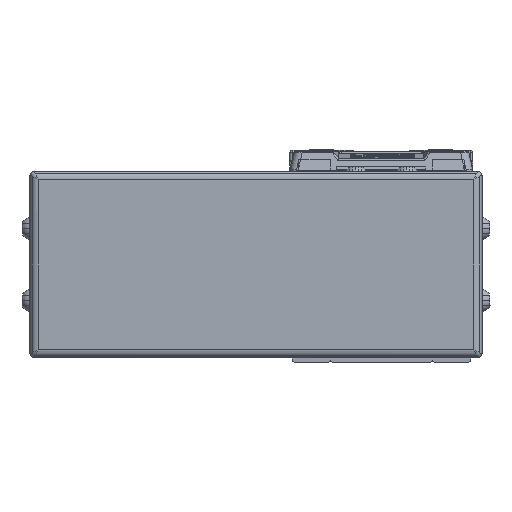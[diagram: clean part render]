
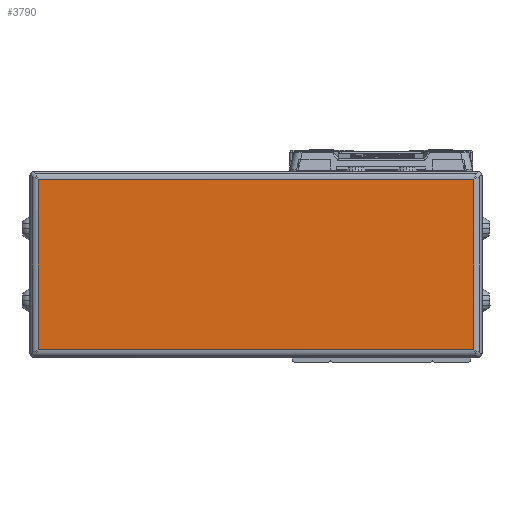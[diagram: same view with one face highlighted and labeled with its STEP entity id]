
A CAD part, left-side view. The second image highlights one B-rep face of the part: STEP entity #3790.
In plain terms, the highlighted planar face has unit normal (-1, 0, 0).
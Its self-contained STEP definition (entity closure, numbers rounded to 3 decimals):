
#3790=ADVANCED_FACE('',(#8359),#8360,.F.);
#8359=FACE_OUTER_BOUND('',#15046,.T.);
#8360=PLANE('',#15047);
#15046=EDGE_LOOP('',(#27424,#27425,#27426,#27427));
#15047=AXIS2_PLACEMENT_3D('',#27428,#27429,#27430);
#27424=ORIENTED_EDGE('',*,*,#39437,.T.);
#27425=ORIENTED_EDGE('',*,*,#39438,.T.);
#27426=ORIENTED_EDGE('',*,*,#37269,.T.);
#27427=ORIENTED_EDGE('',*,*,#38454,.T.);
#27428=CARTESIAN_POINT('',(-48.,29.5,-4.));
#27429=DIRECTION('',(1.0,0.,0.));
#27430=DIRECTION('',(0.,0.,1.0));
#37269=EDGE_CURVE('',#42011,#44867,#44869,.T.);
#38454=EDGE_CURVE('',#44867,#42363,#46715,.T.);
#39437=EDGE_CURVE('',#42363,#46875,#48117,.T.);
#39438=EDGE_CURVE('',#46875,#42011,#48118,.T.);
#42011=VERTEX_POINT('',#51265);
#42363=VERTEX_POINT('',#51761);
#44867=VERTEX_POINT('',#55405);
#44869=LINE('',#55407,#55408);
#46715=LINE('',#58033,#58034);
#46875=VERTEX_POINT('',#58256);
#48117=LINE('',#60122,#60123);
#48118=LINE('',#60124,#60125);
#51265=CARTESIAN_POINT('',(-48.,80.7,-24.));
#51761=CARTESIAN_POINT('',(-48.,-21.7,16.));
#55405=CARTESIAN_POINT('',(-48.,-21.7,-24.));
#55407=CARTESIAN_POINT('',(-48.,29.5,-24.));
#55408=VECTOR('',#66428,10.0);
#58033=CARTESIAN_POINT('',(-48.,-21.7,-4.));
#58034=VECTOR('',#67948,10.0);
#58256=CARTESIAN_POINT('',(-48.,80.7,16.));
#60122=CARTESIAN_POINT('',(-48.,29.5,16.));
#60123=VECTOR('',#69133,10.0);
#60124=CARTESIAN_POINT('',(-48.,80.7,-4.));
#60125=VECTOR('',#69134,10.0);
#66428=DIRECTION('',(0.,-1.0,0.));
#67948=DIRECTION('',(0.,0.,1.0));
#69133=DIRECTION('',(0.,1.0,0.));
#69134=DIRECTION('',(0.,0.,-1.0));
